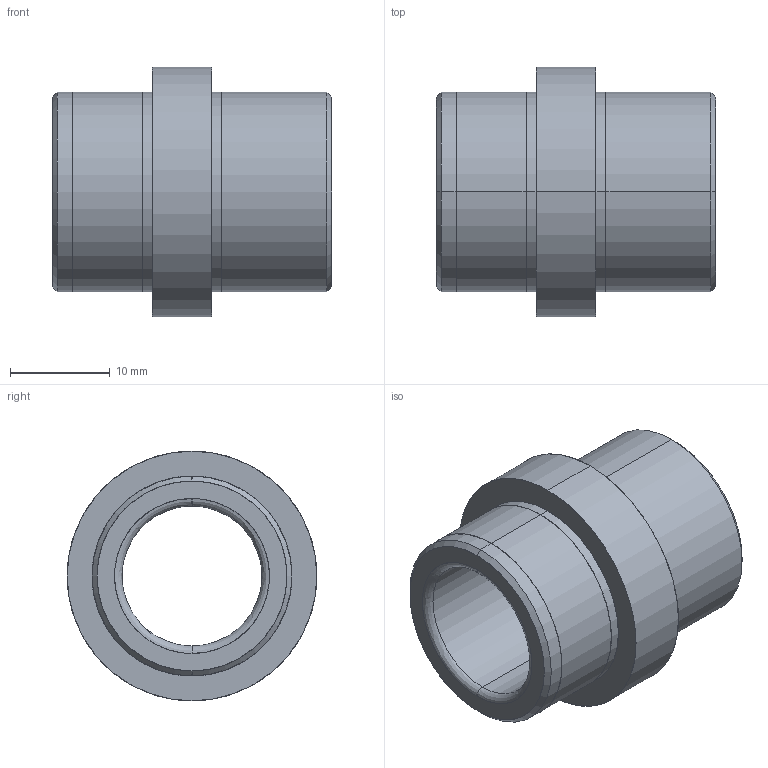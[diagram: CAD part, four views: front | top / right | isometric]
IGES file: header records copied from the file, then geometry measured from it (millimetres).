
Start section: SolidWorks IGES file using analytic representation for surfaces
Global section: file name: C:\Documents and Settings\kalite-mail\Desktop\IGS\D22\D22 - 14x16.IGS; native system: SolidWorks 2008; preprocessor: SolidWorks 2008; author: kalite-mail; date: 080617.121926; units: millimetre
Bounding box: 28 x 25 x 25 mm (x, y, z)
Surface area: 3695.9 mm2 (no closed solid volume)
Topology: 0 solids, 0 shells, 29 faces, 536 edges, 536 vertices
Faces by surface type: revolution 18, bspline 11
